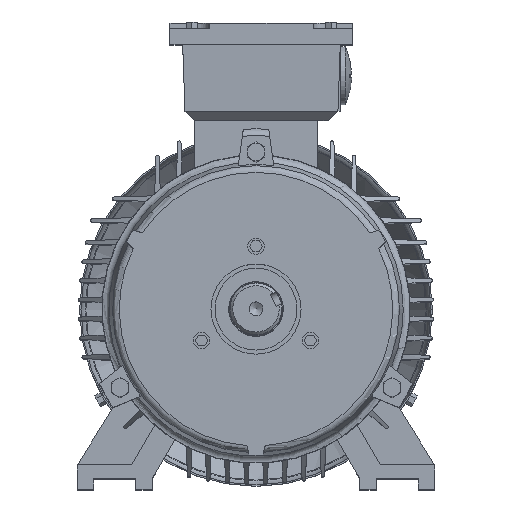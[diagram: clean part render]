
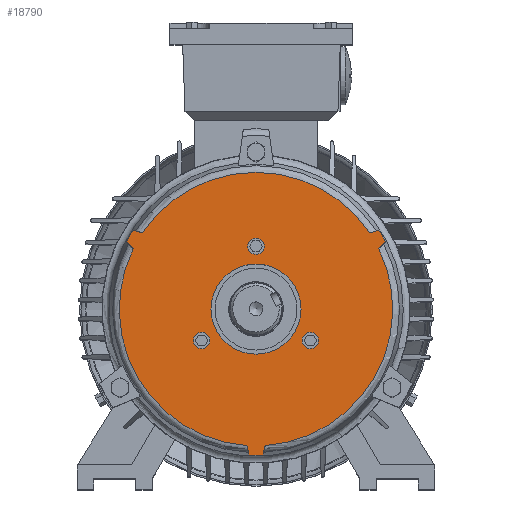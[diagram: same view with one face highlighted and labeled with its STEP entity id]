
A CAD part, top view. The second image highlights one B-rep face of the part: STEP entity #18790.
In plain terms, the highlighted planar face has unit normal (0, 0, 1) as drawn and (-1, 0, 0) by its records, which use the part's own axes.
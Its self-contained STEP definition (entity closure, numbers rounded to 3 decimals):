
#304=FACE_BOUND('',#3155,.T.);
#305=FACE_BOUND('',#3156,.T.);
#306=FACE_BOUND('',#3157,.T.);
#307=FACE_BOUND('',#3158,.T.);
#959=PLANE('',#20101);
#1997=FACE_OUTER_BOUND('',#3154,.T.);
#3154=EDGE_LOOP('',(#14741,#14742,#14743,#14744,#14745,#14746,#14747,#14748,
#14749,#14750,#14751,#14752));
#3155=EDGE_LOOP('',(#14753));
#3156=EDGE_LOOP('',(#14754));
#3157=EDGE_LOOP('',(#14755));
#3158=EDGE_LOOP('',(#14756));
#4499=LINE('',#46935,#6556);
#4500=LINE('',#46938,#6557);
#4501=LINE('',#46940,#6558);
#4502=LINE('',#46943,#6559);
#4503=LINE('',#46945,#6560);
#4504=LINE('',#46948,#6561);
#6556=VECTOR('',#22345,1000.);
#6557=VECTOR('',#22348,1000.);
#6558=VECTOR('',#22349,1000.);
#6559=VECTOR('',#22352,1000.);
#6560=VECTOR('',#22353,1000.);
#6561=VECTOR('',#22356,1000.);
#8270=CIRCLE('',#20013,6.);
#8272=CIRCLE('',#20016,6.);
#8278=CIRCLE('',#20025,6.);
#8301=CIRCLE('',#20054,33.);
#8302=CIRCLE('',#20056,100.136);
#8316=CIRCLE('',#20084,100.136);
#8321=CIRCLE('',#20100,100.136);
#8322=CIRCLE('',#20102,107.);
#8323=CIRCLE('',#20103,107.);
#8324=CIRCLE('',#20104,107.);
#8955=VERTEX_POINT('',#46426);
#8957=VERTEX_POINT('',#46432);
#8963=VERTEX_POINT('',#46450);
#9001=VERTEX_POINT('',#46603);
#9002=VERTEX_POINT('',#46607);
#9003=VERTEX_POINT('',#46624);
#9054=VERTEX_POINT('',#46836);
#9055=VERTEX_POINT('',#46853);
#9062=VERTEX_POINT('',#46898);
#9063=VERTEX_POINT('',#46899);
#9064=VERTEX_POINT('',#46934);
#9065=VERTEX_POINT('',#46936);
#9066=VERTEX_POINT('',#46939);
#9067=VERTEX_POINT('',#46941);
#9068=VERTEX_POINT('',#46944);
#9069=VERTEX_POINT('',#46946);
#11019=EDGE_CURVE('',#8955,#8955,#8270,.T.);
#11022=EDGE_CURVE('',#8957,#8957,#8272,.T.);
#11031=EDGE_CURVE('',#8963,#8963,#8278,.T.);
#11074=EDGE_CURVE('',#9001,#9001,#8301,.T.);
#11076=EDGE_CURVE('',#9003,#9002,#8302,.T.);
#11149=EDGE_CURVE('',#9055,#9054,#8316,.T.);
#11161=EDGE_CURVE('',#9062,#9063,#8321,.T.);
#11164=EDGE_CURVE('',#9002,#9064,#4499,.T.);
#11165=EDGE_CURVE('',#9064,#9065,#8322,.T.);
#11166=EDGE_CURVE('',#9065,#9055,#4500,.T.);
#11167=EDGE_CURVE('',#9054,#9066,#4501,.T.);
#11168=EDGE_CURVE('',#9066,#9067,#8323,.T.);
#11169=EDGE_CURVE('',#9067,#9062,#4502,.T.);
#11170=EDGE_CURVE('',#9063,#9068,#4503,.T.);
#11171=EDGE_CURVE('',#9068,#9069,#8324,.T.);
#11172=EDGE_CURVE('',#9069,#9003,#4504,.T.);
#14741=ORIENTED_EDGE('',*,*,#11076,.T.);
#14742=ORIENTED_EDGE('',*,*,#11164,.T.);
#14743=ORIENTED_EDGE('',*,*,#11165,.T.);
#14744=ORIENTED_EDGE('',*,*,#11166,.T.);
#14745=ORIENTED_EDGE('',*,*,#11149,.T.);
#14746=ORIENTED_EDGE('',*,*,#11167,.T.);
#14747=ORIENTED_EDGE('',*,*,#11168,.T.);
#14748=ORIENTED_EDGE('',*,*,#11169,.T.);
#14749=ORIENTED_EDGE('',*,*,#11161,.T.);
#14750=ORIENTED_EDGE('',*,*,#11170,.T.);
#14751=ORIENTED_EDGE('',*,*,#11171,.T.);
#14752=ORIENTED_EDGE('',*,*,#11172,.T.);
#14753=ORIENTED_EDGE('',*,*,#11019,.F.);
#14754=ORIENTED_EDGE('',*,*,#11022,.F.);
#14755=ORIENTED_EDGE('',*,*,#11031,.F.);
#14756=ORIENTED_EDGE('',*,*,#11074,.F.);
#18790=ADVANCED_FACE('',(#1997,#304,#305,#306,#307),#959,.F.);
#20013=AXIS2_PLACEMENT_3D('',#46428,#22098,#22099);
#20016=AXIS2_PLACEMENT_3D('',#46434,#22105,#22106);
#20025=AXIS2_PLACEMENT_3D('',#46452,#22126,#22127);
#20054=AXIS2_PLACEMENT_3D('',#46605,#22190,#22191);
#20056=AXIS2_PLACEMENT_3D('',#46625,#22194,#22195);
#20084=AXIS2_PLACEMENT_3D('',#46854,#22303,#22304);
#20100=AXIS2_PLACEMENT_3D('',#46900,#22341,#22342);
#20101=AXIS2_PLACEMENT_3D('',#46933,#22343,#22344);
#20102=AXIS2_PLACEMENT_3D('',#46937,#22346,#22347);
#20103=AXIS2_PLACEMENT_3D('',#46942,#22350,#22351);
#20104=AXIS2_PLACEMENT_3D('',#46947,#22354,#22355);
#22098=DIRECTION('center_axis',(-1.,0.,0.));
#22099=DIRECTION('ref_axis',(0.,-0.866,-0.5));
#22105=DIRECTION('center_axis',(-1.,0.,0.));
#22106=DIRECTION('ref_axis',(0.,0.866,-0.5));
#22126=DIRECTION('center_axis',(-1.,0.,0.));
#22127=DIRECTION('ref_axis',(0.,0.,1.));
#22190=DIRECTION('center_axis',(-1.,0.,0.));
#22191=DIRECTION('ref_axis',(0.,0.,1.));
#22194=DIRECTION('center_axis',(-1.,0.,0.));
#22195=DIRECTION('ref_axis',(0.,0.,1.));
#22303=DIRECTION('center_axis',(-1.,0.,0.));
#22304=DIRECTION('ref_axis',(0.,0.,1.));
#22341=DIRECTION('center_axis',(-1.,0.,0.));
#22342=DIRECTION('ref_axis',(0.,0.,1.));
#22343=DIRECTION('center_axis',(1.,0.,0.));
#22344=DIRECTION('ref_axis',(0.,0.,-1.));
#22345=DIRECTION('',(0.,0.693,0.721));
#22346=DIRECTION('center_axis',(-1.,0.,0.));
#22347=DIRECTION('ref_axis',(0.,0.866,-0.5));
#22348=DIRECTION('',(0.,-0.278,-0.961));
#22349=DIRECTION('',(0.,0.278,-0.961));
#22350=DIRECTION('center_axis',(-1.,0.,0.));
#22351=DIRECTION('ref_axis',(0.,-0.866,-0.5));
#22352=DIRECTION('',(0.,-0.693,0.721));
#22353=DIRECTION('',(0.,-0.971,0.239));
#22354=DIRECTION('center_axis',(-1.,0.,0.));
#22355=DIRECTION('ref_axis',(0.,0.,1.));
#22356=DIRECTION('',(0.,0.971,0.239));
#46426=CARTESIAN_POINT('',(2.,-23.,33.837));
#46428=CARTESIAN_POINT('Origin',(2.,-23.,39.837));
#46432=CARTESIAN_POINT('',(2.,-23.,-45.837));
#46434=CARTESIAN_POINT('Origin',(2.,-23.,-39.837));
#46450=CARTESIAN_POINT('',(2.,46.,-6.));
#46452=CARTESIAN_POINT('Origin',(2.,46.,0.));
#46603=CARTESIAN_POINT('',(2.,0.,-33.));
#46605=CARTESIAN_POINT('Origin',(2.,0.,0.));
#46607=CARTESIAN_POINT('',(2.,44.137,89.884));
#46624=CARTESIAN_POINT('',(2.,-99.91,6.718));
#46625=CARTESIAN_POINT('Origin',(2.,0.,0.));
#46836=CARTESIAN_POINT('',(2.,55.773,-83.166));
#46853=CARTESIAN_POINT('',(2.,55.773,83.166));
#46854=CARTESIAN_POINT('Origin',(2.,0.,0.));
#46898=CARTESIAN_POINT('',(2.,44.137,-89.884));
#46899=CARTESIAN_POINT('',(2.,-99.91,-6.718));
#46900=CARTESIAN_POINT('Origin',(2.,0.,0.));
#46933=CARTESIAN_POINT('Origin',(2.,33.,0.));
#46934=CARTESIAN_POINT('',(2.,49.111,95.063));
#46935=CARTESIAN_POINT('',(2.,49.111,95.063));
#46936=CARTESIAN_POINT('',(2.,57.772,90.063));
#46937=CARTESIAN_POINT('Origin',(2.,0.,0.));
#46938=CARTESIAN_POINT('',(2.,57.772,90.063));
#46939=CARTESIAN_POINT('',(2.,57.772,-90.063));
#46940=CARTESIAN_POINT('',(2.,57.772,-90.063));
#46941=CARTESIAN_POINT('',(2.,49.111,-95.063));
#46942=CARTESIAN_POINT('Origin',(2.,0.,0.));
#46943=CARTESIAN_POINT('',(2.,49.111,-95.063));
#46944=CARTESIAN_POINT('',(2.,-106.883,-5.));
#46945=CARTESIAN_POINT('',(2.,-106.883,-5.));
#46946=CARTESIAN_POINT('',(2.,-106.883,5.));
#46947=CARTESIAN_POINT('Origin',(2.,0.,0.));
#46948=CARTESIAN_POINT('',(2.,-106.883,5.));
